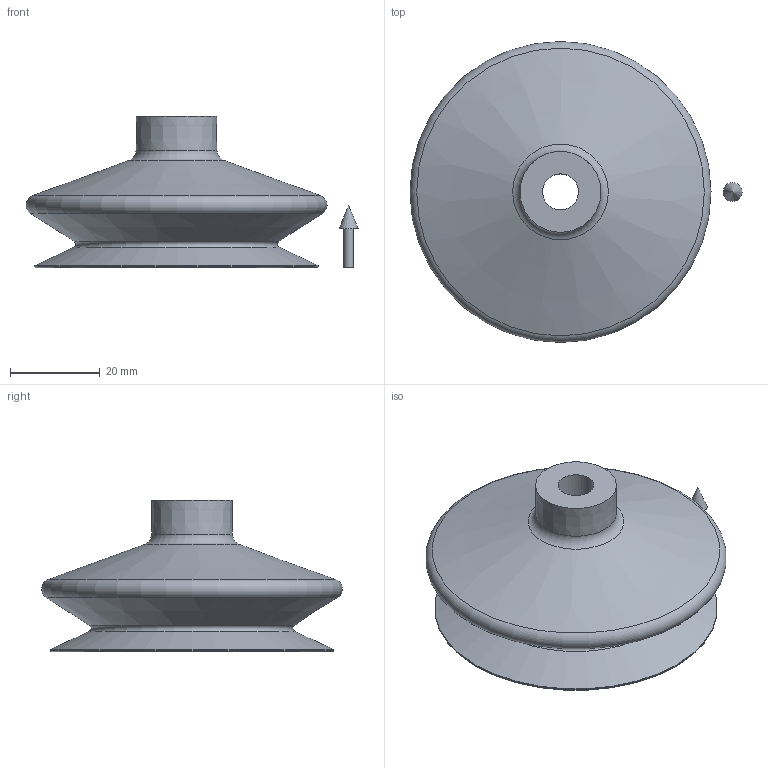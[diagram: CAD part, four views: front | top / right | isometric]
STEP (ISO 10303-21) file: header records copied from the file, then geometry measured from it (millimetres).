
FILE_DESCRIPTION(('STEP AP214'),'1');
FILE_NAME('CA.08.31.010.stp','2019-04-17T13:26:59',(' '),(' '),'Spatial InterOp 3D',' ',' ');
FILE_SCHEMA(('AUTOMOTIVE_DESIGN { 1 0 10303 214 1 1 1 1 }'));
Length unit declared in the file: millimetre
Products named in the file (1): 1
Bounding box: 73.9 x 67 x 33.8 mm (x, y, z)
Volume: 20224.9 mm3; surface area: 17700.1 mm2
Topology: 2 solids, 2 shells, 27 faces, 53 edges, 32 vertices
Faces by surface type: cone 9, torus 7, plane 6, cylinder 5
Full cylindrical faces by diameter (mm): 2.1 x1, 8 x1, 14.5 x1, 24.5 x1, 63 x1
Entity records: 840 total; most frequent: CARTESIAN_POINT 147, DIRECTION 108, AXIS2_PLACEMENT_3D 54, EDGE_LOOP 52, ORIENTED_EDGE 52, FACE_OUTER_BOUND 39, STYLED_ITEM 27, PRESENTATION_STYLE_ASSIGNMENT 27
